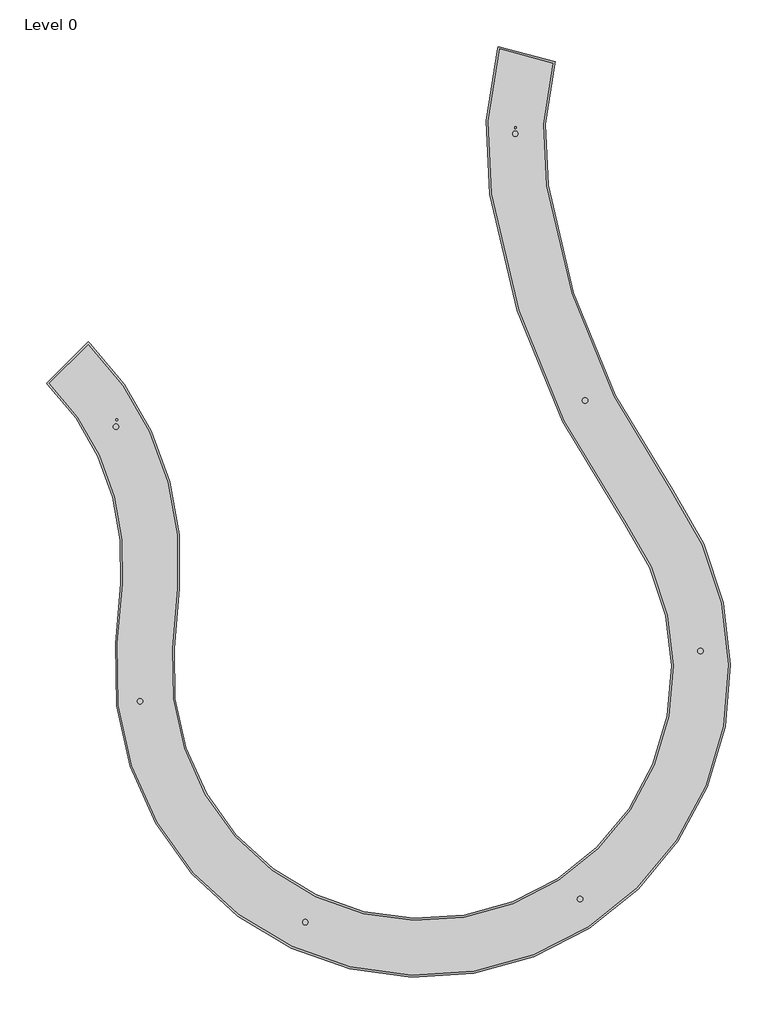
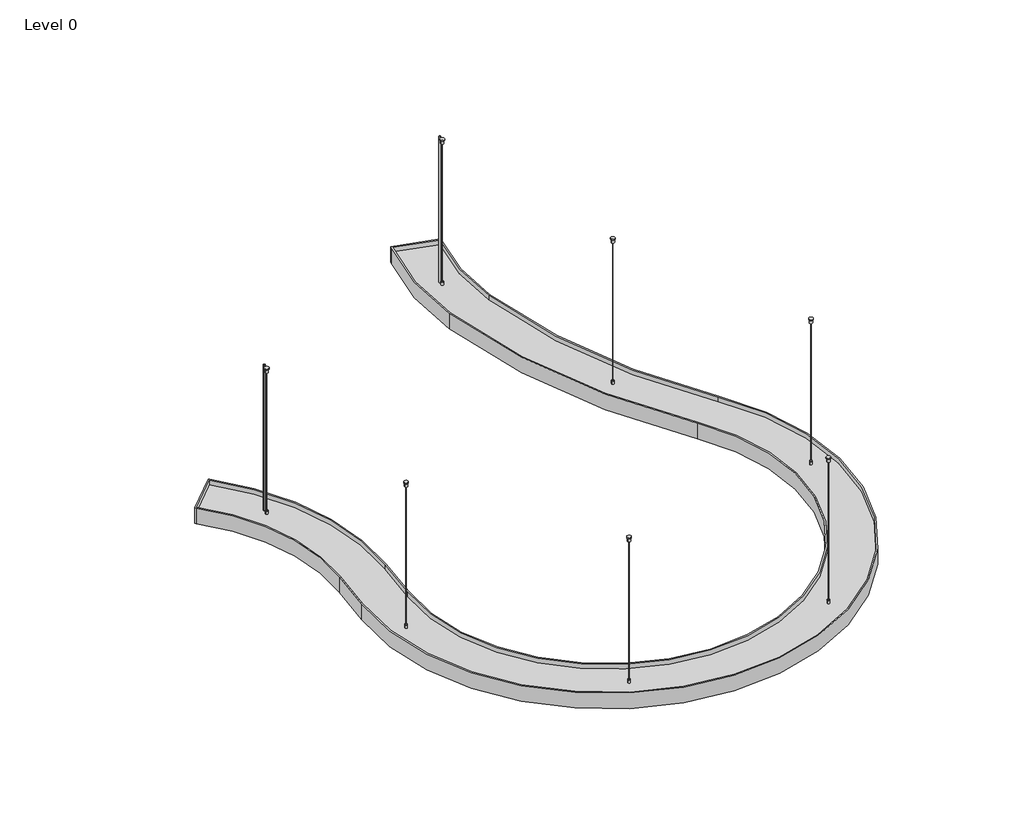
# One storey: 1 light fixture.
"""IFC4 building model written with IfcOpenShell, lengths in millimetres."""

import ifcopenshell
import ifcopenshell.guid

model = None  # the IFC model being written
_history = None  # IfcOwnerHistory: only IFC2X3 demands one
_inside = {}  # id of a spatial element -> (the spatial element, [elements in it])
_under = {}  # id of a project, library or spatial element -> (it, [spatial elements below it])
_declared = {}  # id of a project -> (the project, [libraries it declares])
_typed = {}  # id of a type object -> (the type object, [elements of that type])
_made_of = {}  # id of a material, layer set ... -> (it, [elements and type objects made of it])


def new_model(schema):
    """Start an empty IFC model of exactly this schema.

    Asked for "IFC4X3", IfcOpenShell would pick the latest addendum, in which some entities
    have other attributes; the version numbers below select the first issue.
    IFC2X3 requires an IfcOwnerHistory on every rooted entity: one is made here for all.
    """
    global model, _history
    if schema == "IFC4X3":
        model = ifcopenshell.file(schema_version=(4, 3, 0, 0))
    else:
        model = ifcopenshell.file(schema=schema)
    _inside.clear()
    _under.clear()
    _declared.clear()
    _typed.clear()
    _made_of.clear()
    _history = None
    if model.schema == "IFC2X3":
        org = make("IfcOrganization", Name="unknown")
        user = make(
            "IfcPersonAndOrganization",
            ThePerson=make("IfcPerson", FamilyName="unknown"),
            TheOrganization=org,
        )
        app = make(
            "IfcApplication",
            ApplicationDeveloper=org,
            Version="unknown",
            ApplicationFullName="unknown",
            ApplicationIdentifier="unknown",
        )
        _history = make(
            "IfcOwnerHistory",
            OwningUser=user,
            OwningApplication=app,
            ChangeAction="ADDED",
            CreationDate=0,
        )
    return model


def make(cls, **values):
    """One entity of the class cls with the attributes given. An attribute that is None is left unset."""
    return model.create_entity(
        cls, **{name: value for name, value in values.items() if value is not None}
    )


def rooted(cls, **values):
    """An entity with a GlobalId (a new one), such as an element, a storey or a relation."""
    return make(cls, GlobalId=ifcopenshell.guid.new(), OwnerHistory=_history, **values)


def si_unit(unit_type, name, prefix=None):
    """IfcSIUnit, for example si_unit("LENGTHUNIT", "METRE", prefix="MILLI")."""
    return make("IfcSIUnit", UnitType=unit_type, Prefix=prefix, Name=name)


def assignment(units):
    """IfcUnitAssignment: the units of a project."""
    return None if units is None else make("IfcUnitAssignment", Units=units)


def point(xyz):
    """IfcCartesianPoint."""
    return None if xyz is None else make("IfcCartesianPoint", Coordinates=xyz)


def direction(xyz):
    """IfcDirection."""
    return None if xyz is None else make("IfcDirection", DirectionRatios=xyz)


def frame(location, z_axis=None, x_axis=None):
    """IfcAxis2Placement3D, a coordinate frame: its origin and axes. An axis left out is left unset."""
    return make(
        "IfcAxis2Placement3D",
        Location=point(location),
        Axis=direction(z_axis),
        RefDirection=direction(x_axis),
    )


def frame_2d(location, x_axis=None):
    """IfcAxis2Placement2D, a coordinate frame in the plane: its origin and x axis."""
    return make(
        "IfcAxis2Placement2D", Location=point(location), RefDirection=direction(x_axis)
    )


def origin():
    """The frame at (0, 0, 0) with its axes left unset."""
    return frame((0.0, 0.0, 0.0))


def origin_with_axes():
    """The frame at (0, 0, 0) with the z axis (0, 0, 1) and the x axis (1, 0, 0) written out."""
    return frame((0.0, 0.0, 0.0), z_axis=(0.0, 0.0, 1.0), x_axis=(1.0, 0.0, 0.0))


def origin_2d():
    """The frame at (0, 0) in the plane with its x axis left unset."""
    return frame_2d((0.0, 0.0))


def place(relative_to, where):
    """IfcLocalPlacement: puts the frame where relative to a parent placement (None: the world)."""
    return make(
        "IfcLocalPlacement", PlacementRelTo=relative_to, RelativePlacement=where
    )


def context(
    kind, dimensions, precision=None, world=None, true_north=None, identifier=None
):
    """IfcGeometricRepresentationContext, for example the 3D "Model" context."""
    return make(
        "IfcGeometricRepresentationContext",
        ContextIdentifier=identifier,
        ContextType=kind,
        CoordinateSpaceDimension=dimensions,
        Precision=precision,
        WorldCoordinateSystem=world,
        TrueNorth=true_north,
    )


def project(units=None, contexts=None):
    """IfcProject with its units and contexts."""
    return rooted(
        "IfcProject",
        Name="project",
        RepresentationContexts=contexts,
        UnitsInContext=assignment(units),
    )


def spatial(cls, under=None, at=None, **own):
    """A site, building, storey or space (cls), placed at a placement, below another one or the project."""
    s = rooted(cls, ObjectPlacement=at, **own)
    if under is not None:
        _under.setdefault(under.id(), (under, []))[1].append(s)
    return s


def polyline(points):
    """IfcPolyline through the points."""
    return make("IfcPolyline", Points=[point(p) for p in points])


def circle_curve(where, radius):
    """IfcCircle in the frame where."""
    return make("IfcCircle", Position=where, Radius=radius)


def trimmed(basis, trim1, trim2, sense, master):
    """IfcTrimmedCurve: the piece of a basis curve between two trims."""
    return make(
        "IfcTrimmedCurve",
        BasisCurve=basis,
        Trim1=trim1,
        Trim2=trim2,
        SenseAgreement=sense,
        MasterRepresentation=master,
    )


def segment(curve, same_sense, transition):
    """IfcCompositeCurveSegment."""
    return make(
        "IfcCompositeCurveSegment",
        Transition=transition,
        SameSense=same_sense,
        ParentCurve=curve,
    )


def composite_curve(segments, self_intersect=None):
    """IfcCompositeCurve: segments joined end to end."""
    return make("IfcCompositeCurve", Segments=segments, SelfIntersect=self_intersect)


def outline(outer, holes=None, kind="AREA"):
    """IfcArbitraryClosedProfileDef: a profile drawn as a closed curve; with holes, ...WithVoids."""
    if holes is None:
        return make("IfcArbitraryClosedProfileDef", ProfileType=kind, OuterCurve=outer)
    return make(
        "IfcArbitraryProfileDefWithVoids",
        ProfileType=kind,
        OuterCurve=outer,
        InnerCurves=holes,
    )


def extrude(swept, where, along, depth):
    """IfcExtrudedAreaSolid: the profile swept, set in the frame where, extruded along a direction by depth."""
    return make(
        "IfcExtrudedAreaSolid",
        SweptArea=swept,
        Position=where,
        ExtrudedDirection=direction(along),
        Depth=depth,
    )


def shape(context_of_items, identifier, shape_type, items):
    """IfcShapeRepresentation: the items that make up one representation, for example the "Body"."""
    return make(
        "IfcShapeRepresentation",
        ContextOfItems=context_of_items,
        RepresentationIdentifier=identifier,
        RepresentationType=shape_type,
        Items=items,
    )


def source(mapping_origin, context_of_items, identifier, shape_type, items):
    """IfcRepresentationMap: a shape defined once, which mapped items show again and again."""
    return make(
        "IfcRepresentationMap",
        MappingOrigin=mapping_origin,
        MappedRepresentation=shape(context_of_items, identifier, shape_type, items),
    )


def transform(
    local_origin,
    x_axis=None,
    y_axis=None,
    z_axis=None,
    scale=None,
    scale2=None,
    scale3=None,
    uniform=True,
):
    """IfcCartesianTransformationOperator3D, or its non-uniform kind. x_axis, y_axis, z_axis: its Axis1, 2, 3."""
    if uniform:
        return make(
            "IfcCartesianTransformationOperator3D",
            Axis1=direction(x_axis),
            Axis2=direction(y_axis),
            LocalOrigin=point(local_origin),
            Scale=scale,
            Axis3=direction(z_axis),
        )
    return make(
        "IfcCartesianTransformationOperator3DnonUniform",
        Axis1=direction(x_axis),
        Axis2=direction(y_axis),
        LocalOrigin=point(local_origin),
        Scale=scale,
        Axis3=direction(z_axis),
        Scale2=scale2,
        Scale3=scale3,
    )


def mapped(mapping_source, mapping_target):
    """IfcMappedItem: shows the shape of a source again, moved by a transform."""
    return make(
        "IfcMappedItem", MappingSource=mapping_source, MappingTarget=mapping_target
    )


def made_of(thing, what):
    """Note that an element or type object is made of a material, layer set ...; save() writes the relation."""
    if what is not None:
        _made_of.setdefault(what.id(), (what, []))[1].append(thing)
    return thing


def element(
    cls,
    number,
    at=None,
    inside=None,
    cuts=None,
    type_object=None,
    material=None,
    context=None,
    identifier="Body",
    shape_type=None,
    held_by="IfcProductDefinitionShape",
    body=None,
    shapes=None,
    **own,
):
    """One element of the class cls, such as IfcWall. Its Tag is "e" and its number.

    at: its placement. inside: the storey or other place that contains it. cuts: it is an
    opening in that element (IfcRelVoidsElement). A single representation is given by context,
    identifier, shape_type and body (its items); several are given by shapes. held_by: the class
    of the entity that holds the representations. save() writes the other relations.
    """
    e = rooted(cls, Tag="e%d" % number, ObjectPlacement=at, **own)
    if body is not None:
        shapes = [shape(context, identifier, shape_type, body)]
    if shapes is not None:
        e.Representation = make(held_by, Representations=shapes)
    if inside is not None:
        _inside.setdefault(inside.id(), (inside, []))[1].append(e)
    if cuts is not None:
        rooted(
            "IfcRelVoidsElement", RelatingBuildingElement=cuts, RelatedOpeningElement=e
        )
    if type_object is not None:
        _typed.setdefault(type_object.id(), (type_object, []))[1].append(e)
    return made_of(e, material)


def aggregate(whole, parts):
    """IfcRelAggregates: a whole, such as a stair, and the parts it consists of."""
    return rooted("IfcRelAggregates", RelatingObject=whole, RelatedObjects=parts)


def save(model, path):
    """Write the relations noted so far, then the file.

    IfcRelAggregates (storeys below a building ...), IfcRelContainedInSpatialStructure (elements
    in a storey), IfcRelDefinesByType, IfcRelAssociatesMaterial and IfcRelDeclares: one each for
    every whole, place, type object, material and project.
    """
    for whole, parts in _under.values():
        aggregate(whole, parts)
    for where, things in _inside.values():
        rooted(
            "IfcRelContainedInSpatialStructure",
            RelatedElements=things,
            RelatingStructure=where,
        )
    for kind, things in _typed.values():
        rooted("IfcRelDefinesByType", RelatedObjects=things, RelatingType=kind)
    for what, things in _made_of.values():
        rooted("IfcRelAssociatesMaterial", RelatedObjects=things, RelatingMaterial=what)
    for by, libraries in _declared.values():
        rooted("IfcRelDeclares", RelatingContext=by, RelatedDefinitions=libraries)
    model.write(path)


def silver_anodized_3000_k_12460_lm_a8d2e16b(model_context):
    return source(origin(), model_context, "Body", "SweptSolid", [
        extrude(outline(composite_curve([segment(trimmed(circle_curve(frame_2d((-781.0905266, -618.5597251)), 1.75), [point((-779.3405266, -618.5597251))], [point((-782.8405266, -618.5597251))], False, "CARTESIAN"), True, "CONTINUOUS"), segment(trimmed(circle_curve(frame_2d((-781.0905266, -618.5597251)), 1.75), [point((-782.8405266, -618.5597251))], [point((-779.3405266, -618.5597251))], False, "CARTESIAN"), True, "CONTINUOUS")], self_intersect=False)), frame((0.0, 0.0, 500.5), z_axis=(0.0, 0.0, 1.0), x_axis=(1.0, 0.0, 0.0)), (0.0, 0.0, 1.0), 3.5),
        extrude(outline(composite_curve([segment(trimmed(circle_curve(frame_2d((-719.5118859, 81.4826836)), 1.75), [point((-717.7618859, 81.4826836))], [point((-721.2618859, 81.4826836))], False, "CARTESIAN"), True, "CONTINUOUS"), segment(trimmed(circle_curve(frame_2d((-719.5118859, 81.4826836)), 1.75), [point((-721.2618859, 81.4826836))], [point((-717.7618859, 81.4826836))], False, "CARTESIAN"), True, "CONTINUOUS")], self_intersect=False)), frame((0.0, 0.0, 500.5), z_axis=(0.0, 0.0, 1.0), x_axis=(1.0, 0.0, 0.0)), (0.0, 0.0, 1.0), 3.5),
        extrude(outline(composite_curve([segment(trimmed(circle_curve(frame_2d((-298.5396576, 644.1848126)), 1.75), [point((-296.7896576, 644.1848126))], [point((-300.2896576, 644.1848126))], False, "CARTESIAN"), True, "CONTINUOUS"), segment(trimmed(circle_curve(frame_2d((-298.5396576, 644.1848126)), 1.75), [point((-300.2896576, 644.1848126))], [point((-296.7896576, 644.1848126))], False, "CARTESIAN"), True, "CONTINUOUS")], self_intersect=False)), frame((0.0, 0.0, 500.5), z_axis=(0.0, 0.0, 1.0), x_axis=(1.0, 0.0, 0.0)), (0.0, 0.0, 1.0), 3.5),
        extrude(outline(composite_curve([segment(trimmed(circle_curve(frame_2d((401.7435349, 585.4076632)), 1.75), [point((403.4935349, 585.4076632))], [point((399.9935349, 585.4076632))], False, "CARTESIAN"), True, "CONTINUOUS"), segment(trimmed(circle_curve(frame_2d((401.7435349, 585.4076632)), 1.75), [point((399.9935349, 585.4076632))], [point((403.4935349, 585.4076632))], False, "CARTESIAN"), True, "CONTINUOUS")], self_intersect=False)), frame((0.0, 0.0, 500.5), z_axis=(0.0, 0.0, 1.0), x_axis=(1.0, 0.0, 0.0)), (0.0, 0.0, 1.0), 3.5),
        extrude(outline(composite_curve([segment(trimmed(circle_curve(frame_2d((708.4509127, -46.8754122)), 1.75), [point((710.2009127, -46.8754122))], [point((706.7009127, -46.8754122))], False, "CARTESIAN"), True, "CONTINUOUS"), segment(trimmed(circle_curve(frame_2d((708.4509127, -46.8754122)), 1.75), [point((706.7009127, -46.8754122))], [point((710.2009127, -46.8754122))], False, "CARTESIAN"), True, "CONTINUOUS")], self_intersect=False)), frame((0.0, 0.0, 500.5), z_axis=(0.0, 0.0, 1.0), x_axis=(1.0, 0.0, 0.0)), (0.0, 0.0, 1.0), 3.5),
        extrude(outline(composite_curve([segment(trimmed(circle_curve(frame_2d((414.6132011, -685.2410615)), 1.75), [point((416.3632011, -685.2410615))], [point((412.8632011, -685.2410615))], False, "CARTESIAN"), True, "CONTINUOUS"), segment(trimmed(circle_curve(frame_2d((414.6132011, -685.2410615)), 1.75), [point((412.8632011, -685.2410615))], [point((416.3632011, -685.2410615))], False, "CARTESIAN"), True, "CONTINUOUS")], self_intersect=False)), frame((0.0, 0.0, 500.5), z_axis=(0.0, 0.0, 1.0), x_axis=(1.0, 0.0, 0.0)), (0.0, 0.0, 1.0), 3.5),
        extrude(outline(composite_curve([segment(trimmed(circle_curve(frame_2d((236.636067, -1365.0759259)), 1.75), [point((238.386067, -1365.0759259))], [point((234.886067, -1365.0759259))], False, "CARTESIAN"), True, "CONTINUOUS"), segment(trimmed(circle_curve(frame_2d((236.636067, -1365.0759259)), 1.75), [point((234.886067, -1365.0759259))], [point((238.386067, -1365.0759259))], False, "CARTESIAN"), True, "CONTINUOUS")], self_intersect=False)), frame((0.0, 0.0, 500.5), z_axis=(0.0, 0.0, 1.0), x_axis=(1.0, 0.0, 0.0)), (0.0, 0.0, 1.0), 3.5),
        extrude(outline(composite_curve([segment(trimmed(circle_curve(frame_2d((-781.0905266, -618.5597251)), 5.0), [point((-776.0905266, -618.5597251))], [point((-786.0905266, -618.5597251))], False, "CARTESIAN"), True, "CONTINUOUS"), segment(trimmed(circle_curve(frame_2d((-781.0905266, -618.5597251)), 5.0), [point((-786.0905266, -618.5597251))], [point((-776.0905266, -618.5597251))], False, "CARTESIAN"), True, "CONTINUOUS")], self_intersect=False)), frame((0.0, 0.0, 3.0), z_axis=(0.0, 0.0, 1.0), x_axis=(1.0, 0.0, 0.0)), (0.0, 0.0, 1.0), 12.0),
        extrude(outline(composite_curve([segment(trimmed(circle_curve(frame_2d((-719.5118859, 81.4826836)), 5.0), [point((-714.5118859, 81.4826836))], [point((-724.5118859, 81.4826836))], False, "CARTESIAN"), True, "CONTINUOUS"), segment(trimmed(circle_curve(frame_2d((-719.5118859, 81.4826836)), 5.0), [point((-724.5118859, 81.4826836))], [point((-714.5118859, 81.4826836))], False, "CARTESIAN"), True, "CONTINUOUS")], self_intersect=False)), frame((0.0, 0.0, 3.0), z_axis=(0.0, 0.0, 1.0), x_axis=(1.0, 0.0, 0.0)), (0.0, 0.0, 1.0), 12.0),
        extrude(outline(composite_curve([segment(trimmed(circle_curve(frame_2d((-298.5396576, 644.1848126)), 5.0), [point((-293.5396576, 644.1848126))], [point((-303.5396576, 644.1848126))], False, "CARTESIAN"), True, "CONTINUOUS"), segment(trimmed(circle_curve(frame_2d((-298.5396576, 644.1848126)), 5.0), [point((-303.5396576, 644.1848126))], [point((-293.5396576, 644.1848126))], False, "CARTESIAN"), True, "CONTINUOUS")], self_intersect=False)), frame((0.0, 0.0, 3.0), z_axis=(0.0, 0.0, 1.0), x_axis=(1.0, 0.0, 0.0)), (0.0, 0.0, 1.0), 12.0),
        extrude(outline(composite_curve([segment(trimmed(circle_curve(frame_2d((401.7435349, 585.4076632)), 5.0), [point((406.7435349, 585.4076632))], [point((396.7435349, 585.4076632))], False, "CARTESIAN"), True, "CONTINUOUS"), segment(trimmed(circle_curve(frame_2d((401.7435349, 585.4076632)), 5.0), [point((396.7435349, 585.4076632))], [point((406.7435349, 585.4076632))], False, "CARTESIAN"), True, "CONTINUOUS")], self_intersect=False)), frame((0.0, 0.0, 3.0), z_axis=(0.0, 0.0, 1.0), x_axis=(1.0, 0.0, 0.0)), (0.0, 0.0, 1.0), 12.0),
        extrude(outline(composite_curve([segment(trimmed(circle_curve(frame_2d((708.4509127, -46.8754122)), 5.0), [point((713.4509127, -46.8754122))], [point((703.4509127, -46.8754122))], False, "CARTESIAN"), True, "CONTINUOUS"), segment(trimmed(circle_curve(frame_2d((708.4509127, -46.8754122)), 5.0), [point((703.4509127, -46.8754122))], [point((713.4509127, -46.8754122))], False, "CARTESIAN"), True, "CONTINUOUS")], self_intersect=False)), frame((0.0, 0.0, 3.0), z_axis=(0.0, 0.0, 1.0), x_axis=(1.0, 0.0, 0.0)), (0.0, 0.0, 1.0), 12.0),
        extrude(outline(composite_curve([segment(trimmed(circle_curve(frame_2d((414.6132011, -685.2410615)), 5.0), [point((419.6132011, -685.2410615))], [point((409.6132011, -685.2410615))], False, "CARTESIAN"), True, "CONTINUOUS"), segment(trimmed(circle_curve(frame_2d((414.6132011, -685.2410615)), 5.0), [point((409.6132011, -685.2410615))], [point((419.6132011, -685.2410615))], False, "CARTESIAN"), True, "CONTINUOUS")], self_intersect=False)), frame((0.0, 0.0, 3.0), z_axis=(0.0, 0.0, 1.0), x_axis=(1.0, 0.0, 0.0)), (0.0, 0.0, 1.0), 12.0),
        extrude(outline(composite_curve([segment(trimmed(circle_curve(frame_2d((236.636067, -1365.0759259)), 5.0), [point((241.636067, -1365.0759259))], [point((231.636067, -1365.0759259))], False, "CARTESIAN"), True, "CONTINUOUS"), segment(trimmed(circle_curve(frame_2d((236.636067, -1365.0759259)), 5.0), [point((231.636067, -1365.0759259))], [point((241.636067, -1365.0759259))], False, "CARTESIAN"), True, "CONTINUOUS")], self_intersect=False)), frame((0.0, 0.0, 3.0), z_axis=(0.0, 0.0, 1.0), x_axis=(1.0, 0.0, 0.0)), (0.0, 0.0, 1.0), 12.0),
        extrude(outline(composite_curve([segment(trimmed(circle_curve(frame_2d((-779.194815, -636.1125112)), 2.5), [point((-776.694815, -636.1125112))], [point((-781.694815, -636.1125112))], False, "CARTESIAN"), True, "CONTINUOUS"), segment(trimmed(circle_curve(frame_2d((-779.194815, -636.1125112)), 2.5), [point((-781.694815, -636.1125112))], [point((-776.694815, -636.1125112))], False, "CARTESIAN"), True, "CONTINUOUS")], self_intersect=False)), origin_with_axes(), (0.0, 0.0, 1.0), 516.0),
        extrude(outline(composite_curve([segment(trimmed(circle_curve(frame_2d((237.1731552, -1380.5712872)), 2.5), [point((239.6731552, -1380.5712872))], [point((234.6731552, -1380.5712872))], False, "CARTESIAN"), True, "CONTINUOUS"), segment(trimmed(circle_curve(frame_2d((237.1731552, -1380.5712872)), 2.5), [point((234.6731552, -1380.5712872))], [point((239.6731552, -1380.5712872))], False, "CARTESIAN"), True, "CONTINUOUS")], self_intersect=False)), origin_with_axes(), (0.0, 0.0, 1.0), 516.0),
        extrude(outline(composite_curve([segment(trimmed(circle_curve(origin_2d(), 780.0), [point((-777.1855644, -66.2011969))], [point((633.4228309, -455.1653736))], False, "CARTESIAN"), True, "CONTINUOUS"), segment(trimmed(circle_curve(frame_2d((2099.2282279, -1508.4647318)), 1805.0), [point((633.4228309, -455.1653736))], [point((315.3433707, -1233.1833919))], True, "CARTESIAN"), True, "CONTINUOUS"), segment(trimmed(circle_curve(frame_2d((1064.5004473, -1348.7900483)), 758.024554), [point((315.3433707, -1233.1833919))], [point((332.3049537, -1544.9812396))], True, "CARTESIAN"), True, "CONTINUOUS"), segment(polyline([(332.3049537, -1544.9812396), (197.075338, -1581.2159059)]), True, "CONTINUOUS"), segment(trimmed(circle_curve(frame_2d((1064.5004473, -1348.7900483)), 898.024554), [point((197.075338, -1581.2159059))], [point((176.9811103, -1211.8319306))], False, "CARTESIAN"), True, "CONTINUOUS"), segment(trimmed(circle_curve(frame_2d((2099.2282279, -1508.4647318)), 1945.0), [point((176.9811103, -1211.8319306))], [point((519.7315535, -373.4690245))], False, "CARTESIAN"), True, "CONTINUOUS"), segment(trimmed(circle_curve(origin_2d(), 640.0), [point((519.7315535, -373.4690245))], [point((-637.6907195, -54.3189308))], True, "CARTESIAN"), True, "CONTINUOUS"), segment(polyline([(-637.6907195, -54.3189308), (-624.7565051, -206.1633874)]), True, "CONTINUOUS"), segment(trimmed(circle_curve(frame_2d((-1406.9240282, -272.788951)), 785.0), [point((-624.7565051, -206.1633874))], [point((-851.845205, -827.8677742))], False, "CARTESIAN"), True, "CONTINUOUS"), segment(polyline([(-851.845205, -827.8677742), (-950.8401543, -728.8728248)]), True, "CONTINUOUS"), segment(trimmed(circle_curve(frame_2d((-1406.9240282, -272.788951)), 645.0), [point((-950.8401543, -728.8728248))], [point((-764.2513499, -218.0456535))], True, "CARTESIAN"), True, "CONTINUOUS"), segment(polyline([(-764.2513499, -218.0456535), (-777.1855644, -66.2011969)]), True, "CONTINUOUS")], self_intersect=False)), frame((0.0, 0.0, 516.0), z_axis=(0.0, 0.0, 1.0), x_axis=(1.0, 0.0, 0.0)), (0.0, 0.0, 1.0), 2.0),
        extrude(outline(composite_curve([segment(trimmed(circle_curve(origin_2d(), 780.0), [point((-777.1855644, -66.2011969))], [point((633.4228309, -455.1653736))], False, "CARTESIAN"), True, "CONTINUOUS"), segment(trimmed(circle_curve(frame_2d((2099.2282279, -1508.4647318)), 1805.0), [point((633.4228309, -455.1653736))], [point((315.3433707, -1233.1833919))], True, "CARTESIAN"), True, "CONTINUOUS"), segment(trimmed(circle_curve(frame_2d((1064.5004473, -1348.7900483)), 758.024554), [point((315.3433707, -1233.1833919))], [point((332.3049537, -1544.9812396))], True, "CARTESIAN"), True, "CONTINUOUS"), segment(polyline([(332.3049537, -1544.9812396), (197.075338, -1581.2159059)]), True, "CONTINUOUS"), segment(trimmed(circle_curve(frame_2d((1064.5004473, -1348.7900483)), 898.024554), [point((197.075338, -1581.2159059))], [point((176.9811103, -1211.8319306))], False, "CARTESIAN"), True, "CONTINUOUS"), segment(trimmed(circle_curve(frame_2d((2099.2282279, -1508.4647318)), 1945.0), [point((176.9811103, -1211.8319306))], [point((519.7315535, -373.4690245))], False, "CARTESIAN"), True, "CONTINUOUS"), segment(trimmed(circle_curve(origin_2d(), 640.0), [point((519.7315535, -373.4690245))], [point((-637.6907195, -54.3189308))], True, "CARTESIAN"), True, "CONTINUOUS"), segment(polyline([(-637.6907195, -54.3189308), (-624.7565051, -206.1633874)]), True, "CONTINUOUS"), segment(trimmed(circle_curve(frame_2d((-1406.9240282, -272.788951)), 785.0), [point((-624.7565051, -206.1633874))], [point((-851.845205, -827.8677742))], False, "CARTESIAN"), True, "CONTINUOUS"), segment(polyline([(-851.845205, -827.8677742), (-950.8401543, -728.8728248)]), True, "CONTINUOUS"), segment(trimmed(circle_curve(frame_2d((-1406.9240282, -272.788951)), 645.0), [point((-950.8401543, -728.8728248))], [point((-764.2513499, -218.0456535))], True, "CARTESIAN"), True, "CONTINUOUS"), segment(polyline([(-764.2513499, -218.0456535), (-777.1855644, -66.2011969)]), True, "CONTINUOUS")], self_intersect=False)), frame((0.0, 0.0, 551.0), z_axis=(0.0, 0.0, 1.0), x_axis=(1.0, 0.0, 0.0)), (0.0, 0.0, 1.0), 2.0),
        extrude(outline(composite_curve([segment(trimmed(circle_curve(origin_2d(), 785.0), [point((-782.1675232, -66.6255635))], [point((637.4832336, -458.0831004))], False, "CARTESIAN"), True, "CONTINUOUS"), segment(trimmed(circle_curve(frame_2d((2099.2282279, -1508.4647318)), 1800.0), [point((637.4832336, -458.0831004))], [point((320.28488, -1233.945944))], True, "CARTESIAN"), True, "CONTINUOUS"), segment(trimmed(circle_curve(frame_2d((1064.5004473, -1348.7900483)), 753.024554), [point((320.28488, -1233.945944))], [point((337.1345828, -1543.6871443))], True, "CARTESIAN"), True, "CONTINUOUS"), segment(polyline([(337.1345828, -1543.6871443), (338.428678, -1548.5167735), (193.5398041, -1587.3396302), (192.2457088, -1582.5100011)]), True, "CONTINUOUS"), segment(trimmed(circle_curve(frame_2d((1064.5004473, -1348.7900483)), 903.024554), [point((192.2457088, -1582.5100011))], [point((172.039601, -1211.0693784))], False, "CARTESIAN"), True, "CONTINUOUS"), segment(trimmed(circle_curve(frame_2d((2099.2282279, -1508.4647318)), 1950.0), [point((172.039601, -1211.0693784))], [point((515.6711508, -370.5512977))], False, "CARTESIAN"), True, "CONTINUOUS"), segment(trimmed(circle_curve(origin_2d(), 635.0), [point((515.6711508, -370.5512977))], [point((-632.7087608, -53.8945641))], True, "CARTESIAN"), True, "CONTINUOUS"), segment(polyline([(-632.7087608, -53.8945641), (-619.7745463, -205.7390208)]), True, "CONTINUOUS"), segment(trimmed(circle_curve(frame_2d((-1406.9240282, -272.788951)), 790.0), [point((-619.7745463, -205.7390208))], [point((-848.3096711, -831.4033081))], False, "CARTESIAN"), True, "CONTINUOUS"), segment(polyline([(-848.3096711, -831.4033081), (-851.845205, -834.938842), (-957.9112222, -728.8728248), (-954.3756883, -725.3372909)]), True, "CONTINUOUS"), segment(trimmed(circle_curve(frame_2d((-1406.9240282, -272.788951)), 640.0), [point((-954.3756883, -725.3372909))], [point((-769.2333087, -218.4700202))], True, "CARTESIAN"), True, "CONTINUOUS"), segment(polyline([(-769.2333087, -218.4700202), (-782.1675232, -66.6255635)]), True, "CONTINUOUS")], self_intersect=False), holes=[composite_curve([segment(trimmed(circle_curve(frame_2d((-1406.9240282, -272.788951)), 785.0), [point((-851.845205, -827.8677742))], [point((-624.7565051, -206.1633874))], True, "CARTESIAN"), True, "CONTINUOUS"), segment(polyline([(-624.7565051, -206.1633874), (-637.6907195, -54.3189308)]), True, "CONTINUOUS"), segment(trimmed(circle_curve(origin_2d(), 640.0), [point((-637.6907195, -54.3189308))], [point((519.7315535, -373.4690245))], False, "CARTESIAN"), True, "CONTINUOUS"), segment(trimmed(circle_curve(frame_2d((2099.2282279, -1508.4647318)), 1945.0), [point((519.7315535, -373.4690245))], [point((176.9811103, -1211.8319306))], True, "CARTESIAN"), True, "CONTINUOUS"), segment(trimmed(circle_curve(frame_2d((1064.5004473, -1348.7900483)), 898.024554), [point((176.9811103, -1211.8319306))], [point((197.075338, -1581.2159059))], True, "CARTESIAN"), True, "CONTINUOUS"), segment(polyline([(197.075338, -1581.2159059), (332.3049537, -1544.9812396)]), True, "CONTINUOUS"), segment(trimmed(circle_curve(frame_2d((1064.5004473, -1348.7900483)), 758.024554), [point((332.3049537, -1544.9812396))], [point((315.3433707, -1233.1833919))], False, "CARTESIAN"), True, "CONTINUOUS"), segment(trimmed(circle_curve(frame_2d((2099.2282279, -1508.4647318)), 1805.0), [point((315.3433707, -1233.1833919))], [point((633.4228309, -455.1653736))], False, "CARTESIAN"), True, "CONTINUOUS"), segment(trimmed(circle_curve(origin_2d(), 780.0), [point((633.4228309, -455.1653736))], [point((-777.1855644, -66.2011969))], True, "CARTESIAN"), True, "CONTINUOUS"), segment(polyline([(-777.1855644, -66.2011969), (-764.2513499, -218.0456535)]), True, "CONTINUOUS"), segment(trimmed(circle_curve(frame_2d((-1406.9240282, -272.788951)), 645.0), [point((-764.2513499, -218.0456535))], [point((-950.8401543, -728.8728248))], False, "CARTESIAN"), True, "CONTINUOUS"), segment(polyline([(-950.8401543, -728.8728248), (-851.845205, -827.8677742)]), True, "CONTINUOUS")], self_intersect=False)]), frame((0.0, 0.0, 500.0), z_axis=(0.0, 0.0, 1.0), x_axis=(1.0, 0.0, 0.0)), (0.0, 0.0, 1.0), 55.0),
        extrude(outline(composite_curve([segment(trimmed(circle_curve(frame_2d((-781.0905266, -618.5597251)), 0.5), [point((-780.5905266, -618.5597251))], [point((-781.5905266, -618.5597251))], False, "CARTESIAN"), True, "CONTINUOUS"), segment(trimmed(circle_curve(frame_2d((-781.0905266, -618.5597251)), 0.5), [point((-781.5905266, -618.5597251))], [point((-780.5905266, -618.5597251))], False, "CARTESIAN"), True, "CONTINUOUS")], self_intersect=False)), frame((0.0, 0.0, 15.0), z_axis=(0.0, 0.0, 1.0), x_axis=(1.0, 0.0, 0.0)), (0.0, 0.0, 1.0), 485.5),
        extrude(outline(composite_curve([segment(trimmed(circle_curve(frame_2d((-719.5118859, 81.4826836)), 0.5), [point((-719.0118859, 81.4826836))], [point((-720.0118859, 81.4826836))], False, "CARTESIAN"), True, "CONTINUOUS"), segment(trimmed(circle_curve(frame_2d((-719.5118859, 81.4826836)), 0.5), [point((-720.0118859, 81.4826836))], [point((-719.0118859, 81.4826836))], False, "CARTESIAN"), True, "CONTINUOUS")], self_intersect=False)), frame((0.0, 0.0, 15.0), z_axis=(0.0, 0.0, 1.0), x_axis=(1.0, 0.0, 0.0)), (0.0, 0.0, 1.0), 485.5),
        extrude(outline(composite_curve([segment(trimmed(circle_curve(frame_2d((-298.5396576, 644.1848126)), 0.5), [point((-298.0396576, 644.1848126))], [point((-299.0396576, 644.1848126))], False, "CARTESIAN"), True, "CONTINUOUS"), segment(trimmed(circle_curve(frame_2d((-298.5396576, 644.1848126)), 0.5), [point((-299.0396576, 644.1848126))], [point((-298.0396576, 644.1848126))], False, "CARTESIAN"), True, "CONTINUOUS")], self_intersect=False)), frame((0.0, 0.0, 15.0), z_axis=(0.0, 0.0, 1.0), x_axis=(1.0, 0.0, 0.0)), (0.0, 0.0, 1.0), 485.5),
        extrude(outline(composite_curve([segment(trimmed(circle_curve(frame_2d((401.7435349, 585.4076632)), 0.5), [point((402.2435349, 585.4076632))], [point((401.2435349, 585.4076632))], False, "CARTESIAN"), True, "CONTINUOUS"), segment(trimmed(circle_curve(frame_2d((401.7435349, 585.4076632)), 0.5), [point((401.2435349, 585.4076632))], [point((402.2435349, 585.4076632))], False, "CARTESIAN"), True, "CONTINUOUS")], self_intersect=False)), frame((0.0, 0.0, 15.0), z_axis=(0.0, 0.0, 1.0), x_axis=(1.0, 0.0, 0.0)), (0.0, 0.0, 1.0), 485.5),
        extrude(outline(composite_curve([segment(trimmed(circle_curve(frame_2d((708.4509127, -46.8754122)), 0.5), [point((708.9509127, -46.8754122))], [point((707.9509127, -46.8754122))], False, "CARTESIAN"), True, "CONTINUOUS"), segment(trimmed(circle_curve(frame_2d((708.4509127, -46.8754122)), 0.5), [point((707.9509127, -46.8754122))], [point((708.9509127, -46.8754122))], False, "CARTESIAN"), True, "CONTINUOUS")], self_intersect=False)), frame((0.0, 0.0, 15.0), z_axis=(0.0, 0.0, 1.0), x_axis=(1.0, 0.0, 0.0)), (0.0, 0.0, 1.0), 485.5),
        extrude(outline(composite_curve([segment(trimmed(circle_curve(frame_2d((414.6132011, -685.2410615)), 0.5), [point((415.1132011, -685.2410615))], [point((414.1132011, -685.2410615))], False, "CARTESIAN"), True, "CONTINUOUS"), segment(trimmed(circle_curve(frame_2d((414.6132011, -685.2410615)), 0.5), [point((414.1132011, -685.2410615))], [point((415.1132011, -685.2410615))], False, "CARTESIAN"), True, "CONTINUOUS")], self_intersect=False)), frame((0.0, 0.0, 15.0), z_axis=(0.0, 0.0, 1.0), x_axis=(1.0, 0.0, 0.0)), (0.0, 0.0, 1.0), 485.5),
        extrude(outline(composite_curve([segment(trimmed(circle_curve(frame_2d((236.636067, -1365.0759259)), 0.5), [point((237.136067, -1365.0759259))], [point((236.136067, -1365.0759259))], False, "CARTESIAN"), True, "CONTINUOUS"), segment(trimmed(circle_curve(frame_2d((236.636067, -1365.0759259)), 0.5), [point((236.136067, -1365.0759259))], [point((237.136067, -1365.0759259))], False, "CARTESIAN"), True, "CONTINUOUS")], self_intersect=False)), frame((0.0, 0.0, 15.0), z_axis=(0.0, 0.0, 1.0), x_axis=(1.0, 0.0, 0.0)), (0.0, 0.0, 1.0), 485.5),
        extrude(outline(composite_curve([segment(trimmed(circle_curve(frame_2d((-781.0905266, -618.5597251)), 4.0), [point((-777.0905266, -618.5597251))], [point((-785.0905266, -618.5597251))], False, "CARTESIAN"), True, "CONTINUOUS"), segment(trimmed(circle_curve(frame_2d((-781.0905266, -618.5597251)), 4.0), [point((-785.0905266, -618.5597251))], [point((-777.0905266, -618.5597251))], False, "CARTESIAN"), True, "CONTINUOUS")], self_intersect=False)), frame((0.0, 0.0, 504.0), z_axis=(0.0, 0.0, 1.0), x_axis=(1.0, 0.0, 0.0)), (0.0, 0.0, 1.0), 12.0),
        extrude(outline(composite_curve([segment(trimmed(circle_curve(frame_2d((-719.5118859, 81.4826836)), 4.0), [point((-715.5118859, 81.4826836))], [point((-723.5118859, 81.4826836))], False, "CARTESIAN"), True, "CONTINUOUS"), segment(trimmed(circle_curve(frame_2d((-719.5118859, 81.4826836)), 4.0), [point((-723.5118859, 81.4826836))], [point((-715.5118859, 81.4826836))], False, "CARTESIAN"), True, "CONTINUOUS")], self_intersect=False)), frame((0.0, 0.0, 504.0), z_axis=(0.0, 0.0, 1.0), x_axis=(1.0, 0.0, 0.0)), (0.0, 0.0, 1.0), 12.0),
        extrude(outline(composite_curve([segment(trimmed(circle_curve(frame_2d((-298.5396576, 644.1848126)), 4.0), [point((-294.5396576, 644.1848126))], [point((-302.5396576, 644.1848126))], False, "CARTESIAN"), True, "CONTINUOUS"), segment(trimmed(circle_curve(frame_2d((-298.5396576, 644.1848126)), 4.0), [point((-302.5396576, 644.1848126))], [point((-294.5396576, 644.1848126))], False, "CARTESIAN"), True, "CONTINUOUS")], self_intersect=False)), frame((0.0, 0.0, 504.0), z_axis=(0.0, 0.0, 1.0), x_axis=(1.0, 0.0, 0.0)), (0.0, 0.0, 1.0), 12.0),
        extrude(outline(composite_curve([segment(trimmed(circle_curve(frame_2d((401.7435349, 585.4076632)), 4.0), [point((405.7435349, 585.4076632))], [point((397.7435349, 585.4076632))], False, "CARTESIAN"), True, "CONTINUOUS"), segment(trimmed(circle_curve(frame_2d((401.7435349, 585.4076632)), 4.0), [point((397.7435349, 585.4076632))], [point((405.7435349, 585.4076632))], False, "CARTESIAN"), True, "CONTINUOUS")], self_intersect=False)), frame((0.0, 0.0, 504.0), z_axis=(0.0, 0.0, 1.0), x_axis=(1.0, 0.0, 0.0)), (0.0, 0.0, 1.0), 12.0),
        extrude(outline(composite_curve([segment(trimmed(circle_curve(frame_2d((708.4509127, -46.8754122)), 4.0), [point((712.4509127, -46.8754122))], [point((704.4509127, -46.8754122))], False, "CARTESIAN"), True, "CONTINUOUS"), segment(trimmed(circle_curve(frame_2d((708.4509127, -46.8754122)), 4.0), [point((704.4509127, -46.8754122))], [point((712.4509127, -46.8754122))], False, "CARTESIAN"), True, "CONTINUOUS")], self_intersect=False)), frame((0.0, 0.0, 504.0), z_axis=(0.0, 0.0, 1.0), x_axis=(1.0, 0.0, 0.0)), (0.0, 0.0, 1.0), 12.0),
        extrude(outline(composite_curve([segment(trimmed(circle_curve(frame_2d((414.6132011, -685.2410615)), 4.0), [point((418.6132011, -685.2410615))], [point((410.6132011, -685.2410615))], False, "CARTESIAN"), True, "CONTINUOUS"), segment(trimmed(circle_curve(frame_2d((414.6132011, -685.2410615)), 4.0), [point((410.6132011, -685.2410615))], [point((418.6132011, -685.2410615))], False, "CARTESIAN"), True, "CONTINUOUS")], self_intersect=False)), frame((0.0, 0.0, 504.0), z_axis=(0.0, 0.0, 1.0), x_axis=(1.0, 0.0, 0.0)), (0.0, 0.0, 1.0), 12.0),
        extrude(outline(composite_curve([segment(trimmed(circle_curve(frame_2d((236.636067, -1365.0759259)), 4.0), [point((240.636067, -1365.0759259))], [point((232.636067, -1365.0759259))], False, "CARTESIAN"), True, "CONTINUOUS"), segment(trimmed(circle_curve(frame_2d((236.636067, -1365.0759259)), 4.0), [point((232.636067, -1365.0759259))], [point((240.636067, -1365.0759259))], False, "CARTESIAN"), True, "CONTINUOUS")], self_intersect=False)), frame((0.0, 0.0, 504.0), z_axis=(0.0, 0.0, 1.0), x_axis=(1.0, 0.0, 0.0)), (0.0, 0.0, 1.0), 12.0),
        extrude(outline(composite_curve([segment(trimmed(circle_curve(frame_2d((-781.0905266, -618.5597251)), 7.0), [point((-774.0905266, -618.5597251))], [point((-788.0905266, -618.5597251))], False, "CARTESIAN"), True, "CONTINUOUS"), segment(trimmed(circle_curve(frame_2d((-781.0905266, -618.5597251)), 7.0), [point((-788.0905266, -618.5597251))], [point((-774.0905266, -618.5597251))], False, "CARTESIAN"), True, "CONTINUOUS")], self_intersect=False)), origin_with_axes(), (0.0, 0.0, 1.0), 3.0),
        extrude(outline(composite_curve([segment(trimmed(circle_curve(frame_2d((-719.5118859, 81.4826836)), 7.0), [point((-712.5118859, 81.4826836))], [point((-726.5118859, 81.4826836))], False, "CARTESIAN"), True, "CONTINUOUS"), segment(trimmed(circle_curve(frame_2d((-719.5118859, 81.4826836)), 7.0), [point((-726.5118859, 81.4826836))], [point((-712.5118859, 81.4826836))], False, "CARTESIAN"), True, "CONTINUOUS")], self_intersect=False)), origin_with_axes(), (0.0, 0.0, 1.0), 3.0),
        extrude(outline(composite_curve([segment(trimmed(circle_curve(frame_2d((-298.5396576, 644.1848126)), 7.0), [point((-291.5396576, 644.1848126))], [point((-305.5396576, 644.1848126))], False, "CARTESIAN"), True, "CONTINUOUS"), segment(trimmed(circle_curve(frame_2d((-298.5396576, 644.1848126)), 7.0), [point((-305.5396576, 644.1848126))], [point((-291.5396576, 644.1848126))], False, "CARTESIAN"), True, "CONTINUOUS")], self_intersect=False)), origin_with_axes(), (0.0, 0.0, 1.0), 3.0),
        extrude(outline(composite_curve([segment(trimmed(circle_curve(frame_2d((401.7435349, 585.4076632)), 7.0), [point((408.7435349, 585.4076632))], [point((394.7435349, 585.4076632))], False, "CARTESIAN"), True, "CONTINUOUS"), segment(trimmed(circle_curve(frame_2d((401.7435349, 585.4076632)), 7.0), [point((394.7435349, 585.4076632))], [point((408.7435349, 585.4076632))], False, "CARTESIAN"), True, "CONTINUOUS")], self_intersect=False)), origin_with_axes(), (0.0, 0.0, 1.0), 3.0),
        extrude(outline(composite_curve([segment(trimmed(circle_curve(frame_2d((708.4509127, -46.8754122)), 7.0), [point((715.4509127, -46.8754122))], [point((701.4509127, -46.8754122))], False, "CARTESIAN"), True, "CONTINUOUS"), segment(trimmed(circle_curve(frame_2d((708.4509127, -46.8754122)), 7.0), [point((701.4509127, -46.8754122))], [point((715.4509127, -46.8754122))], False, "CARTESIAN"), True, "CONTINUOUS")], self_intersect=False)), origin_with_axes(), (0.0, 0.0, 1.0), 3.0),
        extrude(outline(composite_curve([segment(trimmed(circle_curve(frame_2d((414.6132011, -685.2410615)), 7.0), [point((421.6132011, -685.2410615))], [point((407.6132011, -685.2410615))], False, "CARTESIAN"), True, "CONTINUOUS"), segment(trimmed(circle_curve(frame_2d((414.6132011, -685.2410615)), 7.0), [point((407.6132011, -685.2410615))], [point((421.6132011, -685.2410615))], False, "CARTESIAN"), True, "CONTINUOUS")], self_intersect=False)), origin_with_axes(), (0.0, 0.0, 1.0), 3.0),
        extrude(outline(composite_curve([segment(trimmed(circle_curve(frame_2d((236.636067, -1365.0759259)), 7.0), [point((243.636067, -1365.0759259))], [point((229.636067, -1365.0759259))], False, "CARTESIAN"), True, "CONTINUOUS"), segment(trimmed(circle_curve(frame_2d((236.636067, -1365.0759259)), 7.0), [point((229.636067, -1365.0759259))], [point((243.636067, -1365.0759259))], False, "CARTESIAN"), True, "CONTINUOUS")], self_intersect=False)), origin_with_axes(), (0.0, 0.0, 1.0), 3.0),
    ])


model = new_model("IFC4")

# Units and contexts
model_context = context("Model", 3, world=origin())
ifc_project = project(units=[si_unit("LENGTHUNIT", "METRE", prefix="MILLI")], contexts=[model_context])

# Site, building, storey
site = spatial("IfcSite", under=ifc_project)
building = spatial("IfcBuilding", under=site)
storey = spatial("IfcBuildingStorey", under=building, Name="Level 0", Elevation=0.0)

# Light fixture
placement = place(None, origin())
silver_anodized_3000_k_12460_lm_shape = silver_anodized_3000_k_12460_lm_a8d2e16b(model_context)
element("IfcLightFixture", 1, ObjectType="KLUŚ - MIFOR - MI-SNAKE-05 : Silver anodized - 3000 K - 12460 lm", at=placement, inside=storey, context=model_context, shape_type="MappedRepresentation", body=[
    mapped(silver_anodized_3000_k_12460_lm_shape, transform((0.0, 0.0, 555.0), x_axis=(1.0, 0.0, 0.0), y_axis=(0.0, -1.0, 0.0), z_axis=(0.0, 0.0, -1.0))),
])

save(model, "model.ifc")
